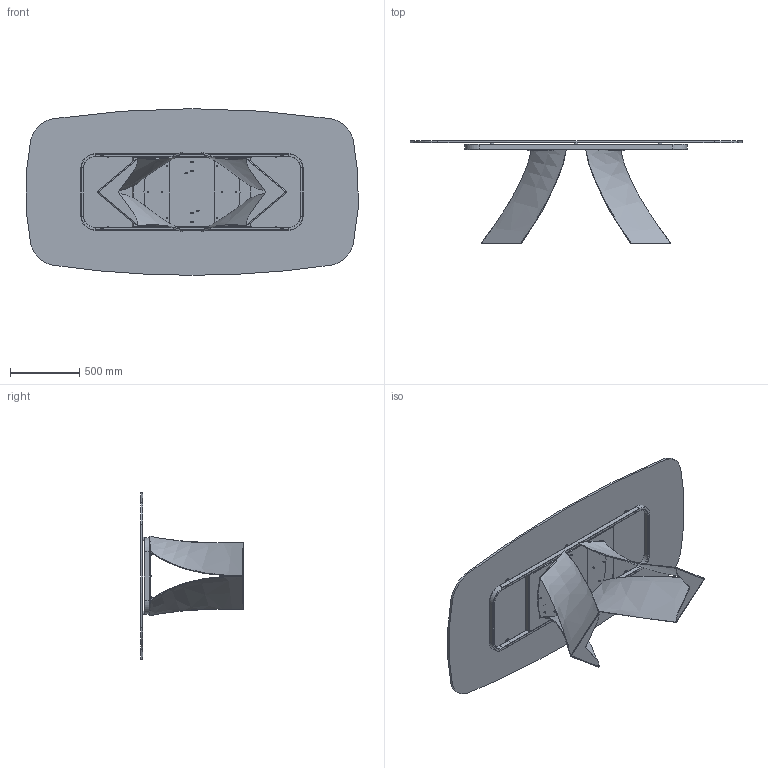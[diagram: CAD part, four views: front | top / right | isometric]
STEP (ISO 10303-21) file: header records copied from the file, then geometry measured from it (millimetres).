
FILE_DESCRIPTION (( 'STEP AP203' ), '1' );
FILE_NAME ('TW43G.STEP', '2024-08-07T12:37:52', ( '' ), ( '' ), 'SwSTEP 2.0', 'SolidWorks 2022', '' );
FILE_SCHEMA (( 'CONFIG_CONTROL_DESIGN' ));
Length unit declared in the file: millimetre
Products named in the file (9): TWS000000BAS-00-TWIST BASE GREZZA; rondella M8_8X16; C4XCRXX-00-Piani Sagomati in Cristallo_2400 x 1200; TTAV01_02-01-VASSOIO IRRIGIDIMENTO TELAIO UNIVERSALE; TW43G; M8xXXmm_M8x20mm; TUBOLARE TELAIO TEMP TWIST_Default<A macchina>; TEALIO TEMP PER MANUALE; 434070-00-PIEDINO TPV GOMMA NERO D. 30x8max18
Assembly tree (36 placements, depth 3):
  TW43G
    C4XCRXX-00-Piani Sagomati in Cristallo_2400 x 1200
    TEALIO TEMP PER MANUALE
      TUBOLARE TELAIO TEMP TWIST_Default<A macchina>
      TTAV01_02-01-VASSOIO IRRIGIDIMENTO TELAIO UNIVERSALE
    TWS000000BAS-00-TWIST BASE GREZZA  x2
    M8xXXmm_M8x20mm  x12
    rondella M8_8X16  x12
    434070-00-PIEDINO TPV GOMMA NERO D. 30x8max18  x6
Bounding box: 2391.62 x 740.37 x 1200 mm (x, y, z)
Volume: 50229088.7 mm3; surface area: 9817494.1 mm2
Topology: 56 solids, 56 shells, 1109 faces, 2585 edges, 1576 vertices
Faces by surface type: plane 424, cylinder 287, torus 200, cone 132, bspline 66
Entity records: 22498 total; most frequent: CARTESIAN_POINT 8927, DIRECTION 2524, ORIENTED_EDGE 2432, EDGE_CURVE 1216, AXIS2_PLACEMENT_3D 939, VERTEX_POINT 789, LINE 646, VECTOR 646
